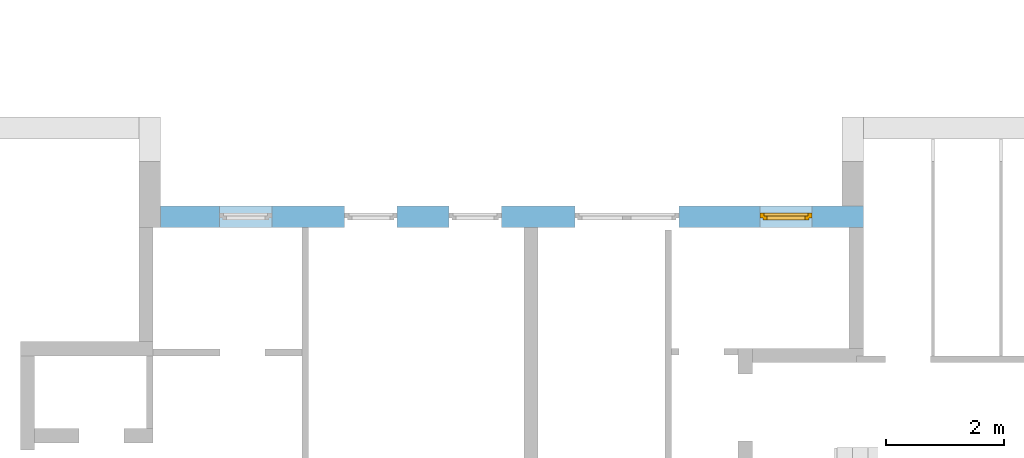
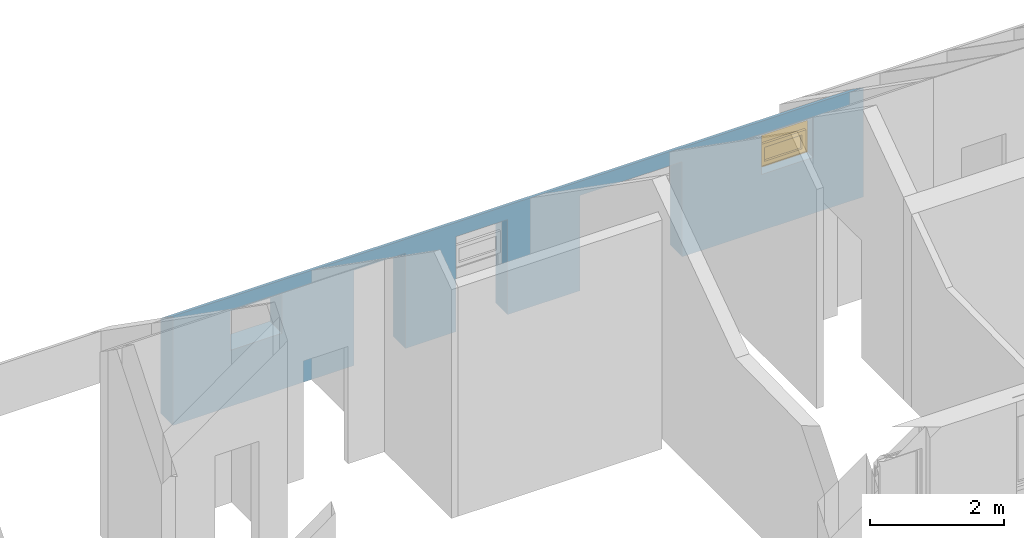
# One storey, part 22 of 23: 1 window, 5 openings, plus 1 element that does not belong to this part.
"""IFC2X3 building model written with IfcOpenShell, lengths in millimetres."""

from ifc_helpers import new_model, entity, si_unit, converted_unit, frame, frame_2d, origin, origin_with_axes, place, context, subcontext, project, spatial, rectangle, extrude, clip, halfspace, faceted_brep, material, layer, layer_set, layer_usage, type_object, element, fill, save


model = new_model("IFC2X3")

# Units and contexts
model_context = context("Model", 3, precision=1e-05, world=origin())
body_context = subcontext(model_context, "Body", "Model", "MODEL_VIEW")
ifc_project = project(units=[si_unit("LENGTHUNIT", "METRE", prefix="MILLI"), converted_unit("PLANEANGLEUNIT", "DEGREE", entity("IfcPlaneAngleMeasure", 0.0174532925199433), si_unit("PLANEANGLEUNIT", "RADIAN"), dimensions=[0, 0, 0, 0, 0, 0, 0]), si_unit("AREAUNIT", "SQUARE_METRE"), si_unit("VOLUMEUNIT", "CUBIC_METRE")], contexts=[model_context])

# Building, storey
building_placement = place(None, origin())
building = spatial("IfcBuilding", under=ifc_project, at=building_placement, Name="Gebäude", CompositionType="ELEMENT")
storey_placement = place(building_placement, frame((0.0, 0.0, 5580.0), z_axis=(0.0, 0.0, 1.0), x_axis=(1.0, 0.0, 0.0)))
storey = spatial("IfcBuildingStorey", under=building, at=storey_placement, Name="DG.- Grundriss", CompositionType="ELEMENT", Elevation=5580.0)

# Wall, openings, window
ifc_material_1 = material(Name="Poroton")
ifc_layer = layer(ifc_material_1, 365.0000000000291)
ifc_layer_set = layer_set([ifc_layer])
ifc_layer_usage = layer_usage(ifc_layer_set, "AXIS2", "POSITIVE", 0.0)
wall_placement = place(storey_placement, frame((176237.7928067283, 134774.8877324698, 0.0), z_axis=(0.0, 0.0, 1.0), x_axis=(-1.0, 0.0, 0.0)))
wall = element("IfcWallStandardCase", 1, at=wall_placement, inside=storey, material=ifc_layer_usage, Name="<Unnamed Element>", context=body_context, shape_type="Clipping", body=[
    clip(extrude(rectangle(XDim=11869.99999999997, YDim=365.0000000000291, at=frame_2d((5934.999999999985, 182.5000000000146), x_axis=(1.0, 0.0))), origin_with_axes(), (0.0, 0.0, 1.0), 1985.88705876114), halfspace(frame((0.0, 0.0, 1730.311307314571), z_axis=(3.082338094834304e-17, 0.5735764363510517, -0.8191520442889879), x_axis=(1.0, 0.0, 0.0)), True)),
])
opening_1_placement = place(wall_placement, frame((7875.000000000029, 0.0, 0.0), z_axis=(0.0, 1.0, 0.0), x_axis=(0.0, 0.0, 1.0)))
element("IfcOpeningElement", 2, at=opening_1_placement, cuts=wall, Name="Fensteröffnung", ObjectType="Opening", context=body_context, shape_type="SweptSolid", body=[
    extrude(rectangle(XDim=1730.311307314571, YDim=885.0, at=frame_2d((865.1556536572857, 442.5), x_axis=(1.0, 0.0))), origin_with_axes(), (0.0, 0.0, 1.0), 365.0000000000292),
])
opening_2_placement = place(wall_placement, frame((6115.000000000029, 0.0, 0.0), z_axis=(0.0, 1.0, 0.0), x_axis=(0.0, 0.0, 1.0)))
element("IfcOpeningElement", 3, at=opening_2_placement, cuts=wall, Name="Fensteröffnung", ObjectType="Opening", context=body_context, shape_type="SweptSolid", body=[
    extrude(rectangle(XDim=1730.311307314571, YDim=885.0, at=frame_2d((865.1556536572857, 442.5), x_axis=(1.0, 0.0))), origin_with_axes(), (0.0, 0.0, 1.0), 365.0000000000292),
])
opening_3_placement = place(wall_placement, frame((9990.00000000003, 0.0, 1020.0), z_axis=(0.0, 1.0, 0.0), x_axis=(0.0, 0.0, 1.0)))
element("IfcOpeningElement", 4, at=opening_3_placement, cuts=wall, Name="Fensteröffnung", ObjectType="Opening", context=body_context, shape_type="SweptSolid", body=[
    extrude(rectangle(XDim=710.3113073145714, YDim=885.0, at=frame_2d((355.1556536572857, 442.5), x_axis=(1.0, 0.0))), origin_with_axes(), (0.0, 0.0, 1.0), 365.0000000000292),
])
opening_4_placement = place(wall_placement, frame((3115.000000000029, 0.0, 0.0), z_axis=(0.0, 1.0, 0.0), x_axis=(0.0, 0.0, 1.0)))
element("IfcOpeningElement", 5, at=opening_4_placement, cuts=wall, Name="Fensteröffnung", ObjectType="Opening", context=body_context, shape_type="SweptSolid", body=[
    extrude(rectangle(XDim=1730.311307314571, YDim=1760.0, at=frame_2d((865.1556536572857, 880.0), x_axis=(1.0, 0.0))), origin_with_axes(), (0.0, 0.0, 1.0), 365.0000000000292),
])
opening_5_placement = place(wall_placement, frame((865.0000000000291, 0.0, 1020.0), z_axis=(0.0, 1.0, 0.0), x_axis=(0.0, 0.0, 1.0)))
opening_5 = element("IfcOpeningElement", 6, at=opening_5_placement, cuts=wall, Name="Fensteröffnung", ObjectType="Opening", context=body_context, shape_type="SweptSolid", body=[
    extrude(rectangle(XDim=710.3113073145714, YDim=885.0, at=frame_2d((355.1556536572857, 442.5), x_axis=(1.0, 0.0))), origin_with_axes(), (0.0, 0.0, 1.0), 365.0000000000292),
])
ifc_material_2 = material()
window_style = type_object("IfcWindowStyle", Name="Fenster", ConstructionType="NOTDEFINED", OperationType="USERDEFINED", ParameterTakesPrecedence=False, Sizeable=False)
window_placement = place(opening_5_placement, frame((0.0, 0.0, 0.0), z_axis=(1.0, 0.0, 0.0), x_axis=(0.0, 1.0, 0.0)))
window = element("IfcWindow", 7, at=window_placement, inside=storey, type_object=window_style, material=ifc_material_2, Name="Fenster", OverallHeight=965.8870587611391, OverallWidth=885.0, context=body_context, shape_type="Brep", body=[
    faceted_brep([(9.79717439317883e-15, 200.000000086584, 794.3362119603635), (9.797174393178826e-15, 200.0000000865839, -2.449293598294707e-15), (70.00000000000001, 200.0000000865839, -2.449293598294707e-15), (70.00000000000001, 200.0000000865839, 794.3362119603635), (0.0, 120.0000000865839, 2.449293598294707e-15), (5.220983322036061e-30, 120.0000000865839, 794.3362119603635), (70.0, 120.0000000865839, 794.3362119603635), (70.0, 120.0000000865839, 2.449293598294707e-15), (9.797174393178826e-15, 200.0000000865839, -2.449293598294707e-15), (9.79717439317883e-15, 200.000000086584, 794.3362119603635), (5.220983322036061e-30, 120.0000000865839, 794.3362119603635), (0.0, 120.0000000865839, 2.449293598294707e-15), (70.00000000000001, 200.0000000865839, -2.449293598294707e-15), (9.797174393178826e-15, 200.0000000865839, -2.449293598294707e-15), (0.0, 120.0000000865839, 2.449293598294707e-15), (70.0, 120.0000000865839, 2.449293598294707e-15), (70.00000000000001, 200.0000000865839, 794.3362119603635), (70.00000000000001, 200.0000000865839, -2.449293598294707e-15), (70.0, 120.0000000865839, 2.449293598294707e-15), (70.0, 120.0000000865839, 794.3362119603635), (9.79717439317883e-15, 200.000000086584, 794.3362119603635), (70.00000000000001, 200.0000000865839, 794.3362119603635), (70.0, 120.0000000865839, 794.3362119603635), (5.220983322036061e-30, 120.0000000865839, 794.3362119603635)], [[[0, 1, 2, 3]], [[4, 5, 6, 7]], [[8, 9, 10, 11]], [[12, 13, 14, 15]], [[16, 17, 18, 19]], [[20, 21, 22, 23]]], orient=[[False], [False], [False], [False], [False], [False]]),
    faceted_brep([(815.0000000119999, 200.0000000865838, 794.3362119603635), (815.0000000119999, 200.0000000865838, -2.449293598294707e-15), (885.0000000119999, 200.0000000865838, -2.449293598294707e-15), (885.0000000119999, 200.0000000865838, 794.3362119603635), (815.0000000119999, 120.0000000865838, 2.449293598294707e-15), (815.0000000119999, 120.0000000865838, 794.3362119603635), (885.0000000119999, 120.0000000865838, 794.3362119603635), (885.0000000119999, 120.0000000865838, 2.449293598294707e-15), (815.0000000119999, 200.0000000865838, -2.449293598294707e-15), (815.0000000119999, 200.0000000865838, 794.3362119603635), (815.0000000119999, 120.0000000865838, 794.3362119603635), (815.0000000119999, 120.0000000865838, 2.449293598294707e-15), (885.0000000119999, 200.0000000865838, -2.449293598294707e-15), (815.0000000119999, 200.0000000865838, -2.449293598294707e-15), (815.0000000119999, 120.0000000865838, 2.449293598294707e-15), (885.0000000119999, 120.0000000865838, 2.449293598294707e-15), (885.0000000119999, 200.0000000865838, 794.3362119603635), (885.0000000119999, 200.0000000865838, -2.449293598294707e-15), (885.0000000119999, 120.0000000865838, 2.449293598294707e-15), (885.0000000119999, 120.0000000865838, 794.3362119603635), (815.0000000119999, 200.0000000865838, 794.3362119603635), (885.0000000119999, 200.0000000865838, 794.3362119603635), (885.0000000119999, 120.0000000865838, 794.3362119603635), (815.0000000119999, 120.0000000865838, 794.3362119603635)], [[[0, 1, 2, 3]], [[4, 5, 6, 7]], [[8, 9, 10, 11]], [[12, 13, 14, 15]], [[16, 17, 18, 19]], [[20, 21, 22, 23]]], orient=[[False], [False], [False], [False], [False], [False]]),
    faceted_brep([(70.00000000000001, 200.0000000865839, 70.0), (70.00000000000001, 200.0000000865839, -2.449293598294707e-15), (815.0000000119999, 200.0000000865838, -2.449293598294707e-15), (815.0000000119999, 200.0000000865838, 70.0), (70.0, 120.0000000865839, 2.449293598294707e-15), (70.0, 120.0000000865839, 70.0), (815.0000000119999, 120.0000000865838, 70.0), (815.0000000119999, 120.0000000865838, 2.449293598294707e-15), (70.00000000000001, 200.0000000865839, -2.449293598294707e-15), (70.00000000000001, 200.0000000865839, 70.0), (70.0, 120.0000000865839, 70.0), (70.0, 120.0000000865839, 2.449293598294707e-15), (815.0000000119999, 200.0000000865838, -2.449293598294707e-15), (70.00000000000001, 200.0000000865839, -2.449293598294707e-15), (70.0, 120.0000000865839, 2.449293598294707e-15), (815.0000000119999, 120.0000000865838, 2.449293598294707e-15), (815.0000000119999, 200.0000000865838, 70.0), (815.0000000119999, 200.0000000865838, -2.449293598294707e-15), (815.0000000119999, 120.0000000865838, 2.449293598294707e-15), (815.0000000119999, 120.0000000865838, 70.0), (70.00000000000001, 200.0000000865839, 70.0), (815.0000000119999, 200.0000000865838, 70.0), (815.0000000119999, 120.0000000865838, 70.0), (70.0, 120.0000000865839, 70.0)], [[[0, 1, 2, 3]], [[4, 5, 6, 7]], [[8, 9, 10, 11]], [[12, 13, 14, 15]], [[16, 17, 18, 19]], [[20, 21, 22, 23]]], orient=[[False], [False], [False], [False], [False], [False]]),
    faceted_brep([(70.00000000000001, 200.000000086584, 794.3362119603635), (70.00000000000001, 200.0000000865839, 424.3362119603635), (815.0000000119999, 200.0000000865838, 424.3362119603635), (815.0000000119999, 200.0000000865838, 794.3362119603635), (70.0, 120.0000000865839, 424.3362119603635), (70.0, 120.0000000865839, 794.3362119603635), (815.0000000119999, 120.0000000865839, 794.3362119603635), (815.0000000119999, 120.0000000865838, 424.3362119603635), (70.00000000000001, 200.0000000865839, 424.3362119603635), (70.00000000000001, 200.000000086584, 794.3362119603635), (70.0, 120.0000000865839, 794.3362119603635), (70.0, 120.0000000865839, 424.3362119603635), (815.0000000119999, 200.0000000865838, 424.3362119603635), (70.00000000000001, 200.0000000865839, 424.3362119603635), (70.0, 120.0000000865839, 424.3362119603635), (815.0000000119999, 120.0000000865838, 424.3362119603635), (815.0000000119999, 200.0000000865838, 794.3362119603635), (815.0000000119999, 200.0000000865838, 424.3362119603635), (815.0000000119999, 120.0000000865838, 424.3362119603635), (815.0000000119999, 120.0000000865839, 794.3362119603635), (70.00000000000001, 200.000000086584, 794.3362119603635), (815.0000000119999, 200.0000000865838, 794.3362119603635), (815.0000000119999, 120.0000000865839, 794.3362119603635), (70.0, 120.0000000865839, 794.3362119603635)], [[[0, 1, 2, 3]], [[4, 5, 6, 7]], [[8, 9, 10, 11]], [[12, 13, 14, 15]], [[16, 17, 18, 19]], [[20, 21, 22, 23]]], orient=[[False], [False], [False], [False], [False], [False]]),
    faceted_brep([(50.00000000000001, 240.0000000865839, 444.3362119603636), (50.00000000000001, 240.0000000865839, 50.0), (120.0, 240.0000000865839, 50.0), (120.0, 240.0000000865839, 444.3362119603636), (50.00000000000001, 170.0000000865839, 50.00000000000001), (50.00000000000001, 170.0000000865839, 444.3362119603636), (120.0, 170.0000000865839, 444.3362119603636), (120.0, 170.0000000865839, 50.00000000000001), (50.00000000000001, 240.0000000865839, 50.0), (50.00000000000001, 240.0000000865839, 444.3362119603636), (50.00000000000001, 170.0000000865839, 444.3362119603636), (50.00000000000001, 170.0000000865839, 50.00000000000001), (120.0, 240.0000000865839, 50.0), (50.00000000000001, 240.0000000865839, 50.0), (50.00000000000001, 170.0000000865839, 50.00000000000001), (120.0, 170.0000000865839, 50.00000000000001), (120.0, 240.0000000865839, 444.3362119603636), (120.0, 240.0000000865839, 50.0), (120.0, 170.0000000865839, 50.00000000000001), (120.0, 170.0000000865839, 444.3362119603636), (50.00000000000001, 240.0000000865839, 444.3362119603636), (120.0, 240.0000000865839, 444.3362119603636), (120.0, 170.0000000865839, 444.3362119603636), (50.00000000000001, 170.0000000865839, 444.3362119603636)], [[[0, 1, 2, 3]], [[4, 5, 6, 7]], [[8, 9, 10, 11]], [[12, 13, 14, 15]], [[16, 17, 18, 19]], [[20, 21, 22, 23]]], orient=[[False], [False], [False], [False], [False], [False]]),
    faceted_brep([(765.0000000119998, 240.0000000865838, 444.3362119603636), (765.0000000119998, 240.0000000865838, 50.0), (835.0000000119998, 240.0000000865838, 50.0), (835.0000000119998, 240.0000000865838, 444.3362119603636), (765.0000000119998, 170.0000000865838, 50.00000000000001), (765.0000000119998, 170.0000000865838, 444.3362119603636), (835.0000000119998, 170.0000000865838, 444.3362119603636), (835.0000000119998, 170.0000000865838, 50.00000000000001), (765.0000000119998, 240.0000000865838, 50.0), (765.0000000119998, 240.0000000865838, 444.3362119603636), (765.0000000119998, 170.0000000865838, 444.3362119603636), (765.0000000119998, 170.0000000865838, 50.00000000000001), (835.0000000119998, 240.0000000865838, 50.0), (765.0000000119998, 240.0000000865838, 50.0), (765.0000000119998, 170.0000000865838, 50.00000000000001), (835.0000000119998, 170.0000000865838, 50.00000000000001), (835.0000000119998, 240.0000000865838, 444.3362119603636), (835.0000000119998, 240.0000000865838, 50.0), (835.0000000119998, 170.0000000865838, 50.00000000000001), (835.0000000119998, 170.0000000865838, 444.3362119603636), (765.0000000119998, 240.0000000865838, 444.3362119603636), (835.0000000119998, 240.0000000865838, 444.3362119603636), (835.0000000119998, 170.0000000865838, 444.3362119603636), (765.0000000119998, 170.0000000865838, 444.3362119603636)], [[[0, 1, 2, 3]], [[4, 5, 6, 7]], [[8, 9, 10, 11]], [[12, 13, 14, 15]], [[16, 17, 18, 19]], [[20, 21, 22, 23]]], orient=[[False], [False], [False], [False], [False], [False]]),
    faceted_brep([(120.0, 240.0000000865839, 120.0), (120.0, 240.0000000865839, 50.0), (765.0000000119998, 240.0000000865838, 50.0), (765.0000000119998, 240.0000000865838, 120.0), (120.0, 170.0000000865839, 50.00000000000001), (120.0, 170.0000000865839, 120.0), (765.0000000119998, 170.0000000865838, 120.0), (765.0000000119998, 170.0000000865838, 50.00000000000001), (120.0, 240.0000000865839, 50.0), (120.0, 240.0000000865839, 120.0), (120.0, 170.0000000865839, 120.0), (120.0, 170.0000000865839, 50.00000000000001), (765.0000000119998, 240.0000000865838, 50.0), (120.0, 240.0000000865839, 50.0), (120.0, 170.0000000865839, 50.00000000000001), (765.0000000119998, 170.0000000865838, 50.00000000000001), (765.0000000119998, 240.0000000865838, 120.0), (765.0000000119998, 240.0000000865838, 50.0), (765.0000000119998, 170.0000000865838, 50.00000000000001), (765.0000000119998, 170.0000000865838, 120.0), (120.0, 240.0000000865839, 120.0), (765.0000000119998, 240.0000000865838, 120.0), (765.0000000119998, 170.0000000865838, 120.0), (120.0, 170.0000000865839, 120.0)], [[[0, 1, 2, 3]], [[4, 5, 6, 7]], [[8, 9, 10, 11]], [[12, 13, 14, 15]], [[16, 17, 18, 19]], [[20, 21, 22, 23]]], orient=[[False], [False], [False], [False], [False], [False]]),
    faceted_brep([(120.0, 240.0000000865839, 444.3362119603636), (120.0, 240.0000000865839, 374.3362119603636), (765.0000000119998, 240.0000000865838, 374.3362119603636), (765.0000000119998, 240.0000000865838, 444.3362119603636), (120.0, 170.0000000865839, 374.3362119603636), (120.0, 170.0000000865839, 444.3362119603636), (765.0000000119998, 170.0000000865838, 444.3362119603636), (765.0000000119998, 170.0000000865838, 374.3362119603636), (120.0, 240.0000000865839, 374.3362119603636), (120.0, 240.0000000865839, 444.3362119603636), (120.0, 170.0000000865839, 444.3362119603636), (120.0, 170.0000000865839, 374.3362119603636), (765.0000000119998, 240.0000000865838, 374.3362119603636), (120.0, 240.0000000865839, 374.3362119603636), (120.0, 170.0000000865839, 374.3362119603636), (765.0000000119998, 170.0000000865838, 374.3362119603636), (765.0000000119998, 240.0000000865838, 444.3362119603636), (765.0000000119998, 240.0000000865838, 374.3362119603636), (765.0000000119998, 170.0000000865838, 374.3362119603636), (765.0000000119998, 170.0000000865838, 444.3362119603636), (120.0, 240.0000000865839, 444.3362119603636), (765.0000000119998, 240.0000000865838, 444.3362119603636), (765.0000000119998, 170.0000000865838, 444.3362119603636), (120.0, 170.0000000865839, 444.3362119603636)], [[[0, 1, 2, 3]], [[4, 5, 6, 7]], [[8, 9, 10, 11]], [[12, 13, 14, 15]], [[16, 17, 18, 19]], [[20, 21, 22, 23]]], orient=[[False], [False], [False], [False], [False], [False]]),
    faceted_brep([(120.0, 205.0000000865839, 120.0), (765.0000000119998, 205.0000000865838, 120.0), (765.0000000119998, 205.0000000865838, 374.3362119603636), (120.0, 205.0000000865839, 374.3362119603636), (120.0, 204.0000000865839, 120.0), (120.0, 204.0000000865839, 374.3362119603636), (765.0000000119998, 204.0000000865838, 374.3362119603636), (765.0000000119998, 204.0000000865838, 120.0), (120.0, 205.0000000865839, 120.0), (120.0, 204.0000000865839, 120.0), (765.0000000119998, 204.0000000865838, 120.0), (765.0000000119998, 205.0000000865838, 120.0), (765.0000000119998, 205.0000000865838, 120.0), (765.0000000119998, 204.0000000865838, 120.0), (765.0000000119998, 204.0000000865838, 374.3362119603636), (765.0000000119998, 205.0000000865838, 374.3362119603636), (765.0000000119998, 205.0000000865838, 374.3362119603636), (765.0000000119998, 204.0000000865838, 374.3362119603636), (120.0, 204.0000000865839, 374.3362119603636), (120.0, 205.0000000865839, 374.3362119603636), (120.0, 205.0000000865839, 374.3362119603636), (120.0, 204.0000000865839, 374.3362119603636), (120.0, 204.0000000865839, 120.0), (120.0, 205.0000000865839, 120.0)], [[[0, 1, 2, 3]], [[4, 5, 6, 7]], [[8, 9, 10, 11]], [[12, 13, 14, 15]], [[16, 17, 18, 19]], [[20, 21, 22, 23]]], orient=[[False], [False], [False], [False], [False], [False]]),
])
fill(opening_5, window)

save(model, "model.ifc")
